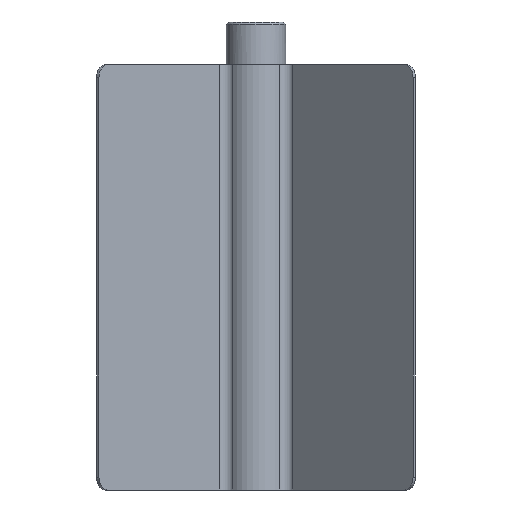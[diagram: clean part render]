
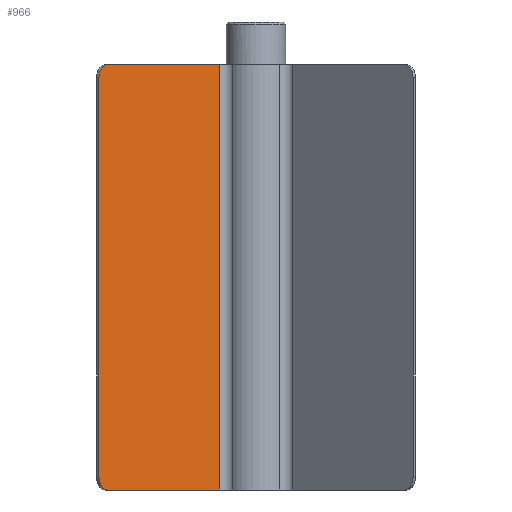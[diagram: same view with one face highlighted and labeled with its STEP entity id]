
A CAD part, front view. The second image highlights one B-rep face of the part: STEP entity #966.
In plain terms, the highlighted planar face has unit normal (0.707, -0.707, 0).
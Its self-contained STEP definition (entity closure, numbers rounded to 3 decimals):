
#39=PLANE('',#1081);
#75=FACE_OUTER_BOUND('',#124,.T.);
#124=EDGE_LOOP('',(#741,#742,#743,#744,#745,#746));
#188=LINE('',#1552,#261);
#197=LINE('',#1584,#270);
#201=LINE('',#1606,#274);
#202=LINE('',#1607,#275);
#261=VECTOR('',#1259,10.);
#270=VECTOR('',#1290,10.);
#274=VECTOR('',#1314,10.);
#275=VECTOR('',#1315,10.);
#329=CIRCLE('',#1066,3.);
#331=CIRCLE('',#1070,3.);
#404=VERTEX_POINT('',#1549);
#405=VERTEX_POINT('',#1551);
#411=VERTEX_POINT('',#1565);
#415=VERTEX_POINT('',#1577);
#416=VERTEX_POINT('',#1578);
#417=VERTEX_POINT('',#1583);
#515=EDGE_CURVE('',#404,#405,#188,.T.);
#522=EDGE_CURVE('',#405,#411,#329,.T.);
#528=EDGE_CURVE('',#415,#416,#331,.T.);
#531=EDGE_CURVE('',#416,#417,#197,.T.);
#543=EDGE_CURVE('',#417,#404,#201,.T.);
#544=EDGE_CURVE('',#411,#415,#202,.T.);
#741=ORIENTED_EDGE('',*,*,#522,.F.);
#742=ORIENTED_EDGE('',*,*,#515,.F.);
#743=ORIENTED_EDGE('',*,*,#543,.F.);
#744=ORIENTED_EDGE('',*,*,#531,.F.);
#745=ORIENTED_EDGE('',*,*,#528,.F.);
#746=ORIENTED_EDGE('',*,*,#544,.F.);
#966=ADVANCED_FACE('',(#75),#39,.T.);
#1066=AXIS2_PLACEMENT_3D('',#1566,#1272,#1273);
#1070=AXIS2_PLACEMENT_3D('',#1579,#1284,#1285);
#1081=AXIS2_PLACEMENT_3D('',#1605,#1312,#1313);
#1259=DIRECTION('',(-0.707,-0.707,0.));
#1272=DIRECTION('center_axis',(-0.707,0.707,0.));
#1273=DIRECTION('ref_axis',(-0.5,-0.5,-0.707));
#1284=DIRECTION('center_axis',(-0.707,0.707,0.));
#1285=DIRECTION('ref_axis',(-0.5,-0.5,0.707));
#1290=DIRECTION('',(0.707,0.707,0.));
#1312=DIRECTION('center_axis',(0.707,-0.707,0.));
#1313=DIRECTION('ref_axis',(0.707,0.707,0.));
#1314=DIRECTION('',(0.,0.,-1.));
#1315=DIRECTION('',(0.,0.,1.));
#1549=CARTESIAN_POINT('',(-8.627,-5.515,-95.));
#1551=CARTESIAN_POINT('',(-34.79,-31.678,-95.));
#1552=CARTESIAN_POINT('',(-36.911,-33.8,-95.));
#1565=CARTESIAN_POINT('',(-36.911,-33.8,-92.));
#1566=CARTESIAN_POINT('Origin',(-34.79,-31.678,-92.));
#1577=CARTESIAN_POINT('',(-36.911,-33.8,2.));
#1578=CARTESIAN_POINT('',(-34.79,-31.678,5.));
#1579=CARTESIAN_POINT('Origin',(-34.79,-31.678,2.));
#1583=CARTESIAN_POINT('',(-8.627,-5.515,5.));
#1584=CARTESIAN_POINT('',(-36.911,-33.8,5.));
#1605=CARTESIAN_POINT('Origin',(-36.911,-33.8,-45.));
#1606=CARTESIAN_POINT('',(-8.627,-5.515,-45.));
#1607=CARTESIAN_POINT('',(-36.911,-33.8,-45.));
